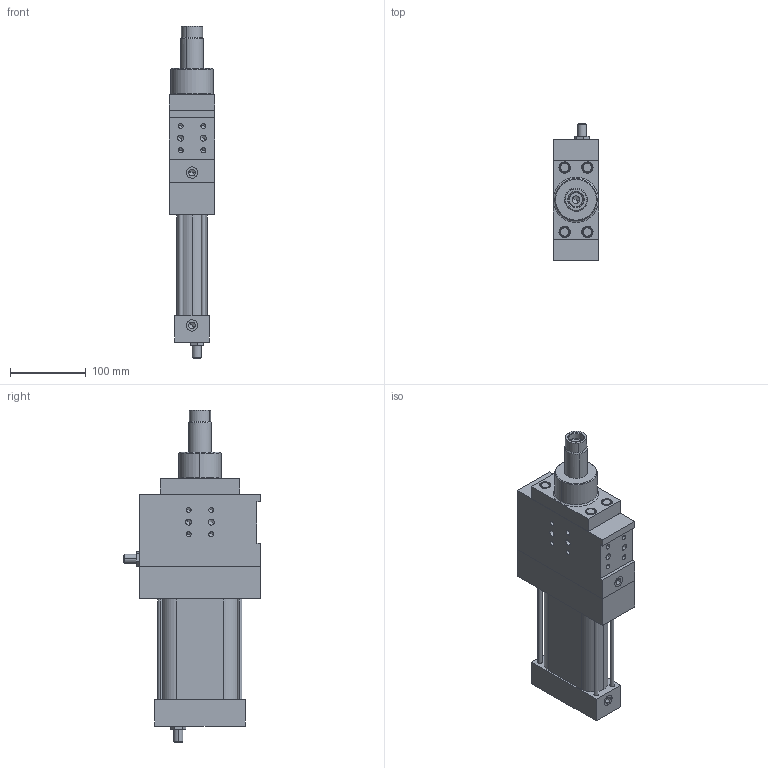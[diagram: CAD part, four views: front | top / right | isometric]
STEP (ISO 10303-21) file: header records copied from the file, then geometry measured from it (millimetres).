
FILE_DESCRIPTION(('CATIA V5 STEP Exchange'),'2;1');
FILE_NAME('G:\Konstruktion\Modelle\UPLOAD\MZ_F_63_V_50_G_T02_TUENKERS.stp','2014-12-12T08:18:03+00:00',('none'),('none'),'CATIA Version 5 Release 19 SP 9 (IN-10)','CATIA V5 STEP AP203','none');
FILE_SCHEMA(('CONFIG_CONTROL_DESIGN'));
Length unit declared in the file: millimetre
Products named in the file (1): MZ_F_63_V_50_G_T02_TUENKERS
Bounding box: 60 x 181 x 438.3 mm (x, y, z)
Volume: 2243725.4 mm3; surface area: 182975.3 mm2
Topology: 1 solids, 10 shells, 315 faces, 714 edges, 416 vertices
Faces by surface type: cylinder 138, plane 91, cone 66, torus 20
Entity records: 7546 total; most frequent: ORIENTED_EDGE 1316, CARTESIAN_POINT 1276, DIRECTION 1036, EDGE_CURVE 658, AXIS2_PLACEMENT_3D 522, VERTEX_POINT 416, EDGE_LOOP 384, CIRCLE 328
